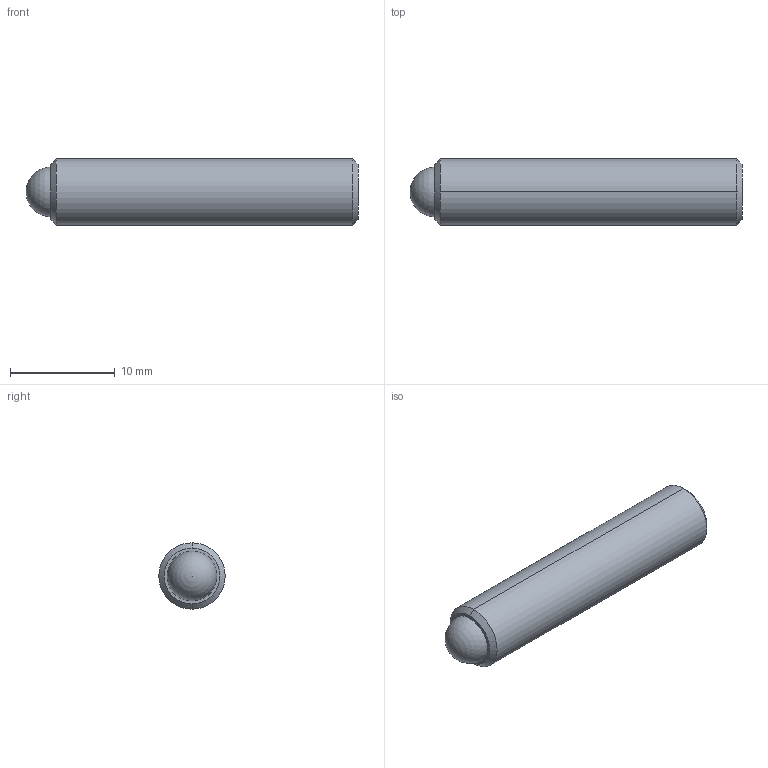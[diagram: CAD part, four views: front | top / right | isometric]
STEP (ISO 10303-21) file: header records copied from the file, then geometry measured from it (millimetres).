
FILE_DESCRIPTION (( 'STEP AP214' ), '1' );
FILE_NAME ('TS250-100-1250-AA.STEP', '2013-02-13T14:02:55', ( 'workpc' ), ( 'Microsoft' ), 'SwSTEP 2.0', 'SolidWorks 2013', '' );
FILE_SCHEMA (( 'AUTOMOTIVE_DESIGN' ));
Length unit declared in the file: inch
Products named in the file (1): TS250-100-1250-AA
Bounding box: 31.75 x 6.35 x 6.35 mm (x, y, z)
Volume: 938.6 mm3; surface area: 753.3 mm2
Topology: 2 solids, 2 shells, 20 faces, 45 edges, 29 vertices
Faces by surface type: plane 10, cylinder 4, cone 4, sphere 2
Entity records: 599 total; most frequent: DIRECTION 96, CARTESIAN_POINT 87, ORIENTED_EDGE 80, EDGE_CURVE 40, AXIS2_PLACEMENT_3D 35, VECTOR 26, VERTEX_POINT 26, LINE 26
